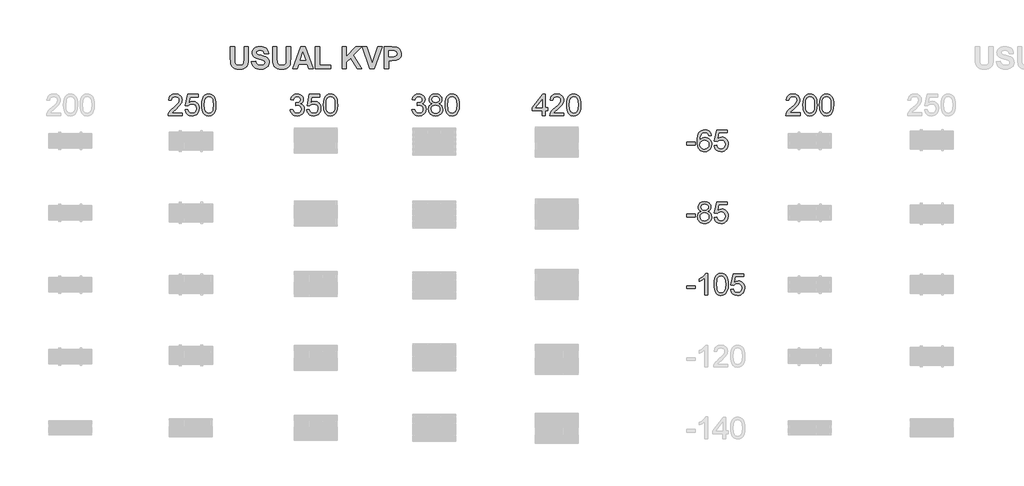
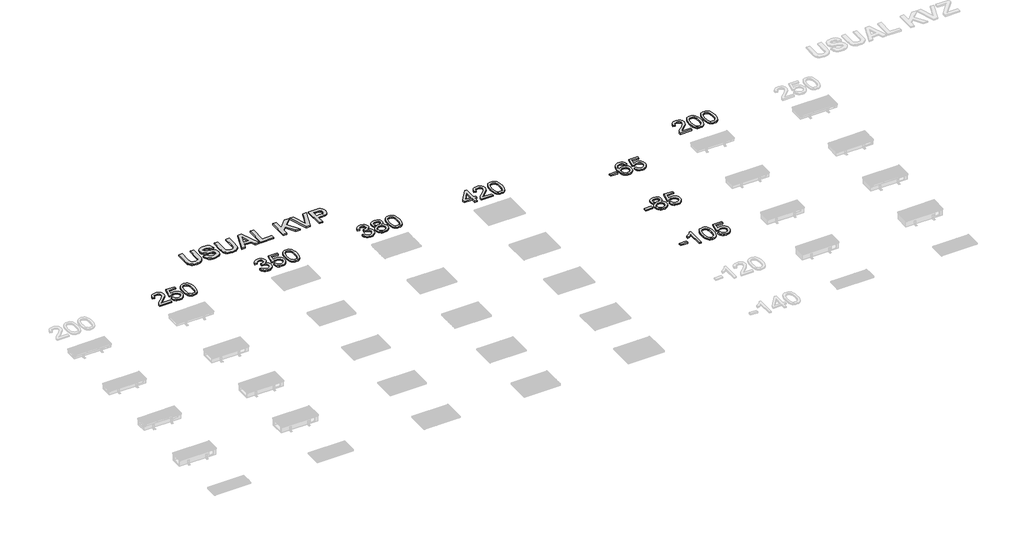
# One storey, part 9 of 12: 9 proxies.
"""IFC4 building model written with IfcOpenShell, lengths in millimetres."""

from ifc_helpers import new_model, si_unit, origin, origin_with_axes, place, context, project, spatial, polyline, outline, extrude, element, save

model = new_model("IFC4")

# Units and contexts
model_context = context("Model", 3, world=origin())
ifc_project = project(units=[si_unit("LENGTHUNIT", "METRE", prefix="MILLI")], contexts=[model_context])

# Site, building, storey
site = spatial("IfcSite", under=ifc_project)
building = spatial("IfcBuilding", under=site)
storey = spatial("IfcBuildingStorey", under=building, Name="Уровень 1", Elevation=0.0)

# Proxies
placement = place(None, origin())
element("IfcBuildingElementProxy", 1, Name="300", ObjectType="300", at=placement, inside=storey, context=model_context, shape_type="SweptSolid", body=[
    extrude(outline(polyline([(3537.6122264, -5516.6857315), (3537.6122264, -5554.3568478), (3339.8388658, -5554.3568478), (3343.8855677, -5528.384379), (3353.1745881, -5508.0864899), (3366.7678278, -5488.3956061), (3386.4311205, -5467.7850173), (3413.9302996, -5444.7280133), (3454.5812601, -5408.6203954), (3478.9718364, -5381.9673449), (3491.1671245, -5360.3358836), (3495.2322206, -5339.2930334), (3491.3970508, -5320.4298841), (3479.8915414, -5304.7489141), (3462.2056144, -5294.1815038), (3439.8291921, -5290.6590337), (3416.3307296, -5294.0987303), (3398.0745856, -5304.4178203), (3386.2931647, -5320.8069632), (3382.2188716, -5342.4568186), (3344.5477553, -5337.7479291), (3353.6804259, -5301.3092174), (3362.2267845, -5286.7732801), (3373.426492, -5274.6929551), (3387.0220309, -5265.1970011), (3402.755884, -5258.4141768), (3440.6385325, -5252.9879174), (3460.8283562, -5254.4962336), (3478.7970924, -5259.0211821), (3494.5447411, -5266.562763), (3508.0713022, -5277.1209763), (3518.9353174, -5289.9140726), (3526.6953282, -5304.1603029), (3531.3513347, -5319.8596671), (3532.9033369, -5337.0121651), (3531.2294738, -5355.0291858), (3526.2078846, -5372.7335068), (3517.2959432, -5390.7413305), (3503.9510238, -5409.6688591), (3482.6782475, -5432.2660107), (3449.9827352, -5461.282703), (3406.6462361, -5497.5190796), (3389.6500879, -5516.6857315), (3537.6122264, -5516.6857315)])), origin_with_axes(), (0.0, 0.0, 1.0), 20.0),
    extrude(outline(polyline([(3575.2833427, -5474.3057257), (3612.954459, -5469.5968361), (3619.8706405, -5492.2123818), (3631.93717, -5508.4083866), (3649.098865, -5518.1480625), (3671.3005435, -5521.3946211), (3698.3030819, -5516.8788696), (3718.5365916, -5503.3316151), (3731.1733382, -5482.3163561), (3735.385587, -5455.3965911), (3731.4400526, -5430.0495217), (3719.6034494, -5410.6621405), (3699.7838069, -5398.3564878), (3671.8891546, -5394.2546035), (3653.6146165, -5395.8916784), (3638.8165633, -5400.802903), (3617.6633486, -5417.7990512), (3579.9922322, -5413.0901617), (3612.954459, -5257.6968069), (3758.9300347, -5257.6968069), (3758.9300347, -5295.3679232), (3643.4150882, -5295.3679232), (3627.3018568, -5378.3621013), (3654.2124248, -5362.0281407), (3682.4105797, -5356.5834872), (3700.756395, -5358.2711459), (3717.6076896, -5363.3341218), (3732.9644636, -5371.7724151), (3746.8267171, -5383.5860257), (3758.302336, -5398.0529851), (3766.4992068, -5414.4513251), (3771.4173292, -5432.7810455), (3773.0567033, -5453.0421464), (3767.1521973, -5490.7132627), (3759.7715648, -5507.5070757), (3749.4386792, -5522.9397254), (3733.7853003, -5538.7448557), (3715.5199593, -5550.0342344), (3694.642656, -5556.8078616), (3671.1533907, -5559.0657374), (3634.153659, -5553.2623989), (3618.4749882, -5546.0082258), (3604.6771141, -5535.8523835), (3593.1968966, -5523.3007096), (3584.4711955, -5508.8590421), (3575.2833427, -5474.3057257)])), origin_with_axes(), (0.0, 0.0, 1.0), 20.0),
    extrude(outline(polyline([(3806.0189301, -5406.1004038), (3808.7872421, -5357.8618772), (3817.0921781, -5319.3906175), (3830.8509648, -5290.0980136), (3849.9808285, -5269.3954544), (3874.6197251, -5257.0898016), (3904.9056104, -5252.9879174), (3928.1189643, -5255.4159385), (3948.904297, -5262.700002), (3966.2867213, -5274.5549993), (3979.2913498, -5290.6958219), (3989.1137991, -5310.9845139), (3996.9496856, -5335.2831197), (4002.0816394, -5366.139222), (4003.7922907, -5406.1004038), (4001.0515698, -5454.0630189), (3992.8294072, -5492.442308), (3979.1533941, -5521.7625031), (3960.0511215, -5542.5478358), (3935.3570425, -5554.936262), (3904.9056104, -5559.0657374), (3884.1570659, -5557.2723126), (3865.7629661, -5551.8920385), (3849.7233111, -5542.9249148), (3836.0381009, -5530.3709417), (3822.9047137, -5507.6772212), (3813.5237228, -5479.4008913), (3807.8951283, -5445.5419522), (3806.0189301, -5406.1004038)]), holes=[polyline([(3843.6900464, -5406.0268274), (3848.1046303, -5465.2834197), (3853.6228603, -5485.5514184), (3861.3483822, -5499.5792187), (3881.0668571, -5515.9407705), (3904.9056104, -5521.3946211), (3928.7443637, -5515.9223764), (3948.4628386, -5499.5056423), (3956.1883605, -5485.4548494), (3961.7065904, -5465.1914492), (3966.1211744, -5406.0268274), (3961.8537432, -5348.1038072), (3956.5194543, -5327.9024872), (3949.0514498, -5313.5412938), (3929.3697631, -5296.3795987), (3904.464152, -5290.6590337), (3880.8829161, -5295.699017), (3861.9369934, -5310.818967), (3853.9539541, -5326.4539518), (3848.2517831, -5347.5335901), (3843.6900464, -5406.0268274)])]), origin_with_axes(), (0.0, 0.0, 1.0), 20.0),
])
element("IfcBuildingElementProxy", 2, Name="300", ObjectType="300", at=placement, inside=storey, context=model_context, shape_type="SweptSolid", body=[
    extrude(outline(polyline([(5036.7545175, -5474.3057257), (5074.4256338, -5469.5968361), (5082.8593285, -5493.2700425), (5095.2109665, -5509.2545152), (5112.087553, -5518.3595946), (5134.0960934, -5521.3946211), (5159.9214094, -5517.2191604), (5179.8606136, -5504.6927785), (5192.6077247, -5486.0043731), (5196.8567618, -5463.3428422), (5192.6445129, -5441.8309426), (5180.0077664, -5424.3841389), (5160.8779026, -5412.8234472), (5137.1863021, -5408.9698833), (5110.7723749, -5413.0901617), (5114.9662296, -5375.4190454), (5120.9994944, -5375.8605038), (5143.5690548, -5373.1565711), (5163.7473822, -5365.0447731), (5177.9844154, -5351.3227747), (5182.7300931, -5331.7882407), (5179.2903965, -5315.5186595), (5168.9713065, -5302.3208929), (5153.2259571, -5293.5744985), (5133.5074822, -5290.6590337), (5113.752219, -5293.6020896), (5097.6021995, -5302.4312575), (5085.8115815, -5317.1465373), (5079.1345233, -5337.7479291), (5041.463407, -5333.0390395), (5052.5550492, -5299.2122901), (5072.2919182, -5273.9571911), (5099.2944566, -5258.2302358), (5132.183107, -5252.9879174), (5155.8655104, -5255.5722884), (5177.6165334, -5263.3254014), (5195.9554509, -5275.5574778), (5209.4015378, -5291.5787387), (5217.6512915, -5310.0372178), (5220.4012095, -5329.5809488), (5217.7892473, -5347.7911075), (5209.9533608, -5364.3090091), (5197.0039146, -5378.3804954), (5179.0512732, -5389.2514084), (5202.6325091, -5398.7795521), (5220.1069039, -5415.0031481), (5230.9226345, -5437.0392796), (5234.5278781, -5464.0050298), (5232.7252563, -5483.1164995), (5227.317391, -5500.7196529), (5218.3042821, -5516.8144902), (5205.6859296, -5531.4010113), (5190.3130608, -5543.504329), (5173.0364026, -5552.1495559), (5153.855955, -5557.336692), (5132.7717182, -5559.0657374), (5113.7154309, -5557.5896109), (5096.3514007, -5553.1612313), (5080.6796277, -5545.7805988), (5066.7001119, -5535.4477133), (5054.9784718, -5522.76958), (5046.080326, -5508.3532043), (5040.0056746, -5492.1985862), (5036.7545175, -5474.3057257)])), origin_with_axes(), (0.0, 0.0, 1.0), 20.0),
    extrude(outline(polyline([(5267.4901048, -5474.3057257), (5305.1612211, -5469.5968361), (5312.0774026, -5492.2123818), (5324.1439321, -5508.4083866), (5341.3056272, -5518.1480625), (5363.5073056, -5521.3946211), (5390.509844, -5516.8788696), (5410.7433538, -5503.3316151), (5423.3801003, -5482.3163561), (5427.5923491, -5455.3965911), (5423.6468147, -5430.0495217), (5411.8102115, -5410.6621405), (5391.9905691, -5398.3564878), (5364.0959168, -5394.2546035), (5345.8213787, -5395.8916784), (5331.0233254, -5400.802903), (5309.8701107, -5417.7990512), (5272.1989944, -5413.0901617), (5305.1612211, -5257.6968069), (5451.1367968, -5257.6968069), (5451.1367968, -5295.3679232), (5335.6218503, -5295.3679232), (5319.508619, -5378.3621013), (5346.4191869, -5362.0281407), (5374.6173418, -5356.5834872), (5392.9631571, -5358.2711459), (5409.8144517, -5363.3341218), (5425.1712258, -5371.7724151), (5439.0334792, -5383.5860257), (5450.5090982, -5398.0529851), (5458.7059689, -5414.4513251), (5463.6240913, -5432.7810455), (5465.2634654, -5453.0421464), (5459.3589594, -5490.7132627), (5451.9783269, -5507.5070757), (5441.6454414, -5522.9397254), (5425.9920625, -5538.7448557), (5407.7267214, -5550.0342344), (5386.8494182, -5556.8078616), (5363.3601528, -5559.0657374), (5326.3604211, -5553.2623989), (5310.6817503, -5546.0082258), (5296.8838762, -5535.8523835), (5285.4036587, -5523.3007096), (5276.6779577, -5508.8590421), (5267.4901048, -5474.3057257)])), origin_with_axes(), (0.0, 0.0, 1.0), 20.0),
    extrude(outline(polyline([(5498.2256922, -5406.1004038), (5500.9940042, -5357.8618772), (5509.2989403, -5319.3906175), (5523.0577269, -5290.0980136), (5542.1875906, -5269.3954544), (5566.8264873, -5257.0898016), (5597.1123725, -5252.9879174), (5620.3257264, -5255.4159385), (5641.1110591, -5262.700002), (5658.4934834, -5274.5549993), (5671.4981119, -5290.6958219), (5681.3205612, -5310.9845139), (5689.1564477, -5335.2831197), (5694.2884015, -5366.139222), (5695.9990528, -5406.1004038), (5693.258332, -5454.0630189), (5685.0361694, -5492.442308), (5671.3601562, -5521.7625031), (5652.2578836, -5542.5478358), (5627.5638047, -5554.936262), (5597.1123725, -5559.0657374), (5576.363828, -5557.2723126), (5557.9697282, -5551.8920385), (5541.9300732, -5542.9249148), (5528.244863, -5530.3709417), (5515.1114758, -5507.6772212), (5505.7304849, -5479.4008913), (5500.1018904, -5445.5419522), (5498.2256922, -5406.1004038)]), holes=[polyline([(5535.8968085, -5406.0268274), (5540.3113925, -5465.2834197), (5545.8296224, -5485.5514184), (5553.5551443, -5499.5792187), (5573.2736192, -5515.9407705), (5597.1123725, -5521.3946211), (5620.9511258, -5515.9223764), (5640.6696007, -5499.5056423), (5648.3951226, -5485.4548494), (5653.9133526, -5465.1914492), (5658.3279365, -5406.0268274), (5654.0605054, -5348.1038072), (5648.7262164, -5327.9024872), (5641.2582119, -5313.5412938), (5621.5765252, -5296.3795987), (5596.6709141, -5290.6590337), (5573.0896782, -5295.699017), (5554.1437555, -5310.818967), (5546.1607162, -5326.4539518), (5540.4585453, -5347.5335901), (5535.8968085, -5406.0268274)])]), origin_with_axes(), (0.0, 0.0, 1.0), 20.0),
])
element("IfcBuildingElementProxy", 3, Name="300", ObjectType="300", at=placement, inside=storey, context=model_context, shape_type="SweptSolid", body=[
    extrude(outline(polyline([(6728.9612796, -5474.3057257), (6766.6323959, -5469.5968361), (6775.0660906, -5493.2700425), (6787.4177286, -5509.2545152), (6804.2943151, -5518.3595946), (6826.3028555, -5521.3946211), (6852.1281716, -5517.2191604), (6872.0673757, -5504.6927785), (6884.8144868, -5486.0043731), (6889.0635239, -5463.3428422), (6884.851275, -5441.8309426), (6872.2145285, -5424.3841389), (6853.0846648, -5412.8234472), (6829.3930643, -5408.9698833), (6802.979137, -5413.0901617), (6807.1729918, -5375.4190454), (6813.2062565, -5375.8605038), (6835.7758169, -5373.1565711), (6855.9541443, -5365.0447731), (6870.1911775, -5351.3227747), (6874.9368553, -5331.7882407), (6871.4971586, -5315.5186595), (6861.1780687, -5302.3208929), (6845.4327193, -5293.5744985), (6825.7142443, -5290.6590337), (6805.9589812, -5293.6020896), (6789.8089616, -5302.4312575), (6778.0183436, -5317.1465373), (6771.3412854, -5337.7479291), (6733.6701691, -5333.0390395), (6744.7618113, -5299.2122901), (6764.4986803, -5273.9571911), (6791.5012188, -5258.2302358), (6824.3898691, -5252.9879174), (6848.0722726, -5255.5722884), (6869.8232955, -5263.3254014), (6888.162213, -5275.5574778), (6901.6082999, -5291.5787387), (6909.8580537, -5310.0372178), (6912.6079716, -5329.5809488), (6909.9960094, -5347.7911075), (6902.1601229, -5364.3090091), (6889.2106767, -5378.3804954), (6871.2580353, -5389.2514084), (6894.8392712, -5398.7795521), (6912.313666, -5415.0031481), (6923.1293966, -5437.0392796), (6926.7346402, -5464.0050298), (6924.9320184, -5483.1164995), (6919.5241531, -5500.7196529), (6910.5110442, -5516.8144902), (6897.8926918, -5531.4010113), (6882.5198229, -5543.504329), (6865.2431647, -5552.1495559), (6846.0627172, -5557.336692), (6824.9784803, -5559.0657374), (6805.922193, -5557.5896109), (6788.5581628, -5553.1612313), (6772.8863898, -5545.7805988), (6758.906874, -5535.4477133), (6747.1852339, -5522.76958), (6738.2870882, -5508.3532043), (6732.2124367, -5492.1985862), (6728.9612796, -5474.3057257)])), origin_with_axes(), (0.0, 0.0, 1.0), 20.0),
    extrude(outline(polyline([(7014.5848606, -5388.3684916), (6994.4157303, -5378.4356777), (6980.2614705, -5364.9711967), (6971.9013521, -5348.25096), (6969.114646, -5328.5508792), (6970.6321593, -5313.1872074), (6975.184699, -5299.1019255), (6982.7722651, -5286.2950335), (6993.3948577, -5274.7665315), (7006.5420405, -5265.2383878), (7021.7033772, -5258.4325709), (7058.0685125, -5252.9879174), (7094.6543769, -5258.5613296), (7109.9812605, -5265.5280949), (7123.3307784, -5275.2815663), (7134.1465091, -5287.035396), (7141.872031, -5300.0032364), (7146.5073441, -5314.1850873), (7148.0524485, -5329.5809488), (7145.3025306, -5348.6464332), (7137.0527768, -5365.0815613), (7123.2112168, -5378.4632689), (7103.6858799, -5388.3684916), (7126.8716426, -5400.3154594), (7143.7482291, -5417.9094158), (7154.039728, -5440.3042323), (7157.4702276, -5466.6537802), (7155.7687733, -5485.4433531), (7150.6644107, -5502.6694275), (7142.1571395, -5518.3320034), (7130.2469599, -5532.4310809), (7115.5592713, -5544.0837431), (7098.7194729, -5552.4070733), (7079.7275649, -5557.4010713), (7058.5835473, -5559.0657374), (7037.4395296, -5557.3941735), (7018.4476216, -5552.3794821), (7001.6078233, -5544.021663), (6986.9201346, -5532.3207163), (6975.009955, -5518.1227706), (6966.5026839, -5502.2739544), (6961.3983212, -5484.7742677), (6959.696867, -5465.6237106), (6963.2653223, -5438.2532901), (6973.9706884, -5415.738912), (6991.2611421, -5398.8531285), (7014.5848606, -5388.3684916)]), holes=[polyline([(7006.7857623, -5329.6545252), (7010.1242914, -5346.0988504), (7020.1398788, -5359.2322376), (7036.5382187, -5367.8406763), (7059.0250057, -5370.7101558), (7080.9875608, -5367.8590704), (7097.1375804, -5359.305814), (7107.0703942, -5346.6138851), (7110.3813322, -5331.3467823), (7106.9600296, -5315.5002654), (7096.696122, -5302.3944693), (7080.3253732, -5293.5928926), (7058.5835473, -5290.6590337), (7036.7037656, -5293.5285132), (7020.360608, -5302.1369519), (7010.1794737, -5314.7553044), (7006.7857623, -5329.6545252)]), polyline([(6997.3679833, -5464.2993354), (7003.6587654, -5492.6630372), (7012.3683716, -5504.8307342), (7025.9156261, -5513.8898284), (7042.1392221, -5519.5184229), (7058.8778529, -5521.3946211), (7084.5192279, -5517.4490867), (7103.7594563, -5505.6124835), (7115.7891975, -5487.6874333), (7119.7991113, -5465.4765578), (7115.6604388, -5442.8886033), (7103.2444215, -5424.5680799), (7083.5627347, -5412.4279741), (7057.6270541, -5408.3812721), (7032.344364, -5412.3727918), (7013.2972737, -5424.3473507), (7001.3503059, -5442.3183862), (6997.3679833, -5464.2993354)])]), origin_with_axes(), (0.0, 0.0, 1.0), 20.0),
    extrude(outline(polyline([(7190.4324543, -5406.1004038), (7193.2007663, -5357.8618772), (7201.5057024, -5319.3906175), (7215.264489, -5290.0980136), (7234.3943528, -5269.3954544), (7259.0332494, -5257.0898016), (7289.3191346, -5252.9879174), (7312.5324885, -5255.4159385), (7333.3178213, -5262.700002), (7350.7002455, -5274.5549993), (7363.7048741, -5290.6958219), (7373.5273233, -5310.9845139), (7381.3632098, -5335.2831197), (7386.4951637, -5366.139222), (7388.2058149, -5406.1004038), (7385.4650941, -5454.0630189), (7377.2429315, -5492.442308), (7363.5669183, -5521.7625031), (7344.4646457, -5542.5478358), (7319.7705668, -5554.936262), (7289.3191346, -5559.0657374), (7268.5705901, -5557.2723126), (7250.1764904, -5551.8920385), (7234.1368354, -5542.9249148), (7220.4516251, -5530.3709417), (7207.3182379, -5507.6772212), (7197.937247, -5479.4008913), (7192.3086525, -5445.5419522), (7190.4324543, -5406.1004038)]), holes=[polyline([(7228.1035706, -5406.0268274), (7232.5181546, -5465.2834197), (7238.0363845, -5485.5514184), (7245.7619064, -5499.5792187), (7265.4803813, -5515.9407705), (7289.3191346, -5521.3946211), (7313.1578879, -5515.9223764), (7332.8763629, -5499.5056423), (7340.6018848, -5485.4548494), (7346.1201147, -5465.1914492), (7350.5346986, -5406.0268274), (7346.2672675, -5348.1038072), (7340.9329786, -5327.9024872), (7333.4649741, -5313.5412938), (7313.7832873, -5296.3795987), (7288.8776762, -5290.6590337), (7265.2964404, -5295.699017), (7246.3505176, -5310.818967), (7238.3674783, -5326.4539518), (7232.6653074, -5347.5335901), (7228.1035706, -5406.0268274)])]), origin_with_axes(), (0.0, 0.0, 1.0), 20.0),
])
element("IfcBuildingElementProxy", 4, Name="300", ObjectType="300", at=placement, inside=storey, context=model_context, shape_type="SweptSolid", body=[
    extrude(outline(polyline([(8543.5991697, -5554.3568478), (8543.5991697, -5483.7235048), (8407.0413731, -5483.7235048), (8407.0413731, -5446.0523884), (8553.0169488, -5257.6968069), (8581.270286, -5257.6968069), (8581.270286, -5446.0523884), (8618.9414023, -5446.0523884), (8618.9414023, -5483.7235048), (8581.270286, -5483.7235048), (8581.270286, -5554.3568478), (8543.5991697, -5554.3568478)]), holes=[polyline([(8543.5991697, -5446.0523884), (8543.5991697, -5329.6545252), (8453.3945045, -5446.0523884), (8543.5991697, -5446.0523884)])]), origin_with_axes(), (0.0, 0.0, 1.0), 20.0),
    extrude(outline(polyline([(8844.9681002, -5516.6857315), (8844.9681002, -5554.3568478), (8647.1947395, -5554.3568478), (8651.2414415, -5528.384379), (8660.5304619, -5508.0864899), (8674.1237016, -5488.3956061), (8693.7869942, -5467.7850173), (8721.2861734, -5444.7280133), (8761.9371338, -5408.6203954), (8786.3277101, -5381.9673449), (8798.5229983, -5360.3358836), (8802.5880943, -5339.2930334), (8798.7529245, -5320.4298841), (8787.2474151, -5304.7489141), (8769.5614882, -5294.1815038), (8747.1850658, -5290.6590337), (8723.6866034, -5294.0987303), (8705.4304594, -5304.4178203), (8693.6490385, -5320.8069632), (8689.5747454, -5342.4568186), (8651.9036291, -5337.7479291), (8661.0362996, -5301.3092174), (8669.5826582, -5286.7732801), (8680.7823657, -5274.6929551), (8694.3779047, -5265.1970011), (8710.1117578, -5258.4141768), (8747.9944062, -5252.9879174), (8768.18423, -5254.4962336), (8786.1529662, -5259.0211821), (8801.9006148, -5266.562763), (8815.4271759, -5277.1209763), (8826.2911911, -5289.9140726), (8834.0512019, -5304.1603029), (8838.7072084, -5319.8596671), (8840.2592106, -5337.0121651), (8838.5853475, -5355.0291858), (8833.5637583, -5372.7335068), (8824.651817, -5390.7413305), (8811.3068976, -5409.6688591), (8790.0341212, -5432.2660107), (8757.3386089, -5461.282703), (8714.0021099, -5497.5190796), (8697.0059617, -5516.6857315), (8844.9681002, -5516.6857315)])), origin_with_axes(), (0.0, 0.0, 1.0), 20.0),
    extrude(outline(polyline([(8882.6392165, -5406.1004038), (8885.4075285, -5357.8618772), (8893.7124645, -5319.3906175), (8907.4712511, -5290.0980136), (8926.6011149, -5269.3954544), (8951.2400115, -5257.0898016), (8981.5258968, -5252.9879174), (9004.7392507, -5255.4159385), (9025.5245834, -5262.700002), (9042.9070077, -5274.5549993), (9055.9116362, -5290.6958219), (9065.7340855, -5310.9845139), (9073.569972, -5335.2831197), (9078.7019258, -5366.139222), (9080.4125771, -5406.1004038), (9077.6718562, -5454.0630189), (9069.4496936, -5492.442308), (9055.7736804, -5521.7625031), (9036.6714078, -5542.5478358), (9011.9773289, -5554.936262), (8981.5258968, -5559.0657374), (8960.7773522, -5557.2723126), (8942.3832525, -5551.8920385), (8926.3435975, -5542.9249148), (8912.6583873, -5530.3709417), (8899.525, -5507.6772212), (8890.1440092, -5479.4008913), (8884.5154146, -5445.5419522), (8882.6392165, -5406.1004038)]), holes=[polyline([(8920.3103328, -5406.0268274), (8924.7249167, -5465.2834197), (8930.2431466, -5485.5514184), (8937.9686685, -5499.5792187), (8957.6871435, -5515.9407705), (8981.5258968, -5521.3946211), (9005.36465, -5515.9223764), (9025.083125, -5499.5056423), (9032.8086469, -5485.4548494), (9038.3268768, -5465.1914492), (9042.7414608, -5406.0268274), (9038.4740296, -5348.1038072), (9033.1397407, -5327.9024872), (9025.6717362, -5313.5412938), (9005.9900494, -5296.3795987), (8981.0844384, -5290.6590337), (8957.5032025, -5295.699017), (8938.5572797, -5310.818967), (8930.5742404, -5326.4539518), (8924.8720695, -5347.5335901), (8920.3103328, -5406.0268274)])]), origin_with_axes(), (0.0, 0.0, 1.0), 20.0),
])
element("IfcBuildingElementProxy", 5, Name="300", ObjectType="300", at=placement, inside=storey, context=model_context, shape_type="SweptSolid", body=[
    extrude(outline(polyline([(10550.4611786, -5963.3123649), (10550.4611786, -5925.6412486), (10668.183417, -5925.6412486), (10668.183417, -5963.3123649), (10550.4611786, -5963.3123649)])), origin_with_axes(), (0.0, 0.0, 1.0), 20.0),
    extrude(outline(polyline([(10894.2101149, -5831.4634579), (10856.5389986, -5836.1723474), (10850.4689457, -5817.5023361), (10842.2651772, -5804.755225), (10825.1770585, -5793.0013953), (10804.5204845, -5789.083452), (10787.0093015, -5791.3643204), (10770.5281881, -5798.2069255), (10756.3739283, -5812.6187027), (10744.8132366, -5832.4567393), (10737.0049413, -5860.5169384), (10734.1078706, -5899.5952034), (10749.2186235, -5881.9644588), (10767.3276147, -5869.5392444), (10787.4231687, -5862.1724074), (10808.49361, -5859.7167951), (10826.5934042, -5861.3952567), (10843.2952467, -5866.4306415), (10858.5991377, -5874.8229495), (10872.5050772, -5886.5721807), (10884.0611703, -5900.9793594), (10892.3155226, -5917.3455096), (10897.268134, -5935.6706315), (10898.9190044, -5955.954725), (10895.8104016, -5982.9296723), (10886.484593, -6007.936451), (10871.7141309, -6029.144848), (10852.2715674, -6044.7246505), (10829.0398194, -6054.2987794), (10802.9018037, -6057.4901557), (10780.4449071, -6055.3748342), (10760.1631129, -6049.0288698), (10742.0564209, -6038.4522625), (10726.1248313, -6023.6450121), (10713.1362976, -6003.9817195), (10703.8587735, -5978.8369851), (10698.2922591, -5948.210809), (10696.4367543, -5912.1031912), (10698.4968934, -5871.6223762), (10704.677311, -5837.0736583), (10714.9780068, -5808.4570376), (10729.398981, -5785.7725141), (10745.0293673, -5770.739936), (10763.1521541, -5760.0023803), (10783.7673414, -5753.5598469), (10806.8749292, -5751.4123357), (10839.9291265, -5756.7282305), (10866.398236, -5772.675915), (10884.9394886, -5798.0045904), (10894.2101149, -5831.4634579)]), holes=[polyline([(10734.1078706, -5955.3661138), (10736.2875714, -5972.0587594), (10742.8266739, -5987.9972468), (10752.9802169, -6001.7008511), (10766.0032396, -6011.6888473), (10781.7209978, -6017.7864914), (10799.9587477, -6019.8190394), (10824.8183735, -6015.6067906), (10844.3621045, -6002.970044), (10857.0264422, -5983.1044163), (10861.2478881, -5957.2055238), (10857.0816245, -5932.345898), (10844.5828337, -5913.3907782), (10824.7080089, -5901.3886281), (10798.4136433, -5897.3879114), (10773.5908057, -5901.3886281), (10752.8330641, -5913.3907782), (10738.789169, -5931.8860455), (10734.1078706, -5955.3661138)])]), origin_with_axes(), (0.0, 0.0, 1.0), 20.0),
    extrude(outline(polyline([(10931.8812312, -5972.730144), (10969.5523475, -5968.0212545), (10976.468529, -5990.6368001), (10988.5350584, -6006.832805), (11005.6967535, -6016.5724808), (11027.8984319, -6019.8190394), (11054.9009704, -6015.3032879), (11075.1344801, -6001.7560334), (11087.7712266, -5980.7407745), (11091.9834755, -5953.8210095), (11088.0379411, -5928.47394), (11076.2013379, -5909.0865588), (11056.3816954, -5896.7809061), (11028.4870431, -5892.6790219), (11010.212505, -5894.3160967), (10995.4144518, -5899.2273214), (10974.261237, -5916.2234696), (10936.5901207, -5911.51458), (10969.5523475, -5756.1212253), (11115.5279232, -5756.1212253), (11115.5279232, -5793.7923416), (11000.0129767, -5793.7923416), (10983.8997453, -5876.7865197), (11010.8103133, -5860.4525591), (11039.0084682, -5855.0079056), (11057.3542834, -5856.6955642), (11074.2055781, -5861.7585402), (11089.5623521, -5870.1968334), (11103.4246055, -5882.010444), (11114.9002245, -5896.4774035), (11123.0970952, -5912.8757434), (11128.0152177, -5931.2054638), (11129.6545918, -5951.4665647), (11123.7500858, -5989.137681), (11116.3694532, -6005.9314941), (11106.0365677, -6021.3641438), (11090.3831888, -6037.169274), (11072.1178477, -6048.4586527), (11051.2405445, -6055.23228), (11027.7512791, -6057.4901557), (10990.7515475, -6051.6868172), (10975.0728767, -6044.4326441), (10961.2750026, -6034.2768018), (10949.7947851, -6021.725128), (10941.069084, -6007.2834604), (10931.8812312, -5972.730144)])), origin_with_axes(), (0.0, 0.0, 1.0), 20.0),
])
element("IfcBuildingElementProxy", 6, Name="300", ObjectType="300", at=placement, inside=storey, context=model_context, shape_type="SweptSolid", body=[
    extrude(outline(polyline([(10550.4611786, -6963.3123649), (10550.4611786, -6925.6412486), (10668.183417, -6925.6412486), (10668.183417, -6963.3123649), (10550.4611786, -6963.3123649)])), origin_with_axes(), (0.0, 0.0, 1.0), 20.0),
    extrude(outline(polyline([(10756.0336375, -6886.7929099), (10735.8645071, -6876.8600961), (10721.7102473, -6863.395615), (10713.350129, -6846.6753784), (10710.5634229, -6826.9752975), (10712.0809361, -6811.6116257), (10716.6334758, -6797.5263438), (10724.221042, -6784.7194519), (10734.8436346, -6773.1909498), (10747.9908174, -6763.6628062), (10763.1521541, -6756.8569892), (10799.5172893, -6751.4123357), (10836.1031537, -6756.9857479), (10851.4300374, -6763.9525132), (10864.7795553, -6773.7059846), (10875.5952859, -6785.4598144), (10883.3208078, -6798.4276547), (10887.956121, -6812.6095056), (10889.5012253, -6828.0053671), (10886.7513074, -6847.0708515), (10878.5015537, -6863.5059796), (10864.6599936, -6876.8876872), (10845.1346567, -6886.7929099), (10868.3204195, -6898.7398777), (10885.197006, -6916.3338342), (10895.4885048, -6938.7286506), (10898.9190044, -6965.0781985), (10897.2175502, -6983.8677714), (10892.1131875, -7001.0938458), (10883.6059164, -7016.7564218), (10871.6957368, -7030.8554993), (10857.0080481, -7042.5081614), (10840.1682498, -7050.8314916), (10821.1763418, -7055.8254897), (10800.0323241, -7057.4901557), (10778.8883064, -7055.8185919), (10759.8963984, -7050.8039004), (10743.0566001, -7042.4460814), (10728.3689115, -7030.7451347), (10716.4587319, -7016.5471889), (10707.9514607, -7000.6983727), (10702.847098, -6983.198686), (10701.1456438, -6964.0481289), (10704.7140992, -6936.6777085), (10715.4194652, -6914.1633304), (10732.709919, -6897.2775468), (10756.0336375, -6886.7929099)]), holes=[polyline([(10748.2345392, -6828.0789435), (10751.5730683, -6844.5232687), (10761.5886556, -6857.6566559), (10777.9869956, -6866.2650946), (10800.4737825, -6869.1345742), (10822.4363376, -6866.2834887), (10838.5863572, -6857.7302323), (10848.5191711, -6845.0383035), (10851.830109, -6829.7712007), (10848.4088065, -6813.9246837), (10838.1448988, -6800.8188877), (10821.77415, -6792.0173109), (10800.0323241, -6789.083452), (10778.1525425, -6791.9529316), (10761.8093848, -6800.5613703), (10751.6282506, -6813.1797227), (10748.2345392, -6828.0789435)]), polyline([(10738.8167601, -6962.7237537), (10745.1075422, -6991.0874556), (10753.8171485, -7003.2551526), (10767.3644029, -7012.3142467), (10783.5879989, -7017.9428412), (10800.3266297, -7019.8190394), (10825.9680048, -7015.873505), (10845.2082331, -7004.0369018), (10857.2379744, -6986.1118516), (10861.2478881, -6963.9009761), (10857.1092157, -6941.3130216), (10844.6931983, -6922.9924983), (10825.0115116, -6910.8523924), (10799.0758309, -6906.8056905), (10773.7931408, -6910.7972101), (10754.7460505, -6922.7717691), (10742.7990827, -6940.7428045), (10738.8167601, -6962.7237537)])]), origin_with_axes(), (0.0, 0.0, 1.0), 20.0),
    extrude(outline(polyline([(10931.8812312, -6972.730144), (10969.5523475, -6968.0212545), (10976.468529, -6990.6368001), (10988.5350584, -7006.832805), (11005.6967535, -7016.5724808), (11027.8984319, -7019.8190394), (11054.9009704, -7015.3032879), (11075.1344801, -7001.7560334), (11087.7712266, -6980.7407745), (11091.9834755, -6953.8210095), (11088.0379411, -6928.47394), (11076.2013379, -6909.0865588), (11056.3816954, -6896.7809061), (11028.4870431, -6892.6790219), (11010.212505, -6894.3160967), (10995.4144518, -6899.2273214), (10974.261237, -6916.2234696), (10936.5901207, -6911.51458), (10969.5523475, -6756.1212253), (11115.5279232, -6756.1212253), (11115.5279232, -6793.7923416), (11000.0129767, -6793.7923416), (10983.8997453, -6876.7865197), (11010.8103133, -6860.4525591), (11039.0084682, -6855.0079056), (11057.3542834, -6856.6955642), (11074.2055781, -6861.7585402), (11089.5623521, -6870.1968334), (11103.4246055, -6882.010444), (11114.9002245, -6896.4774035), (11123.0970952, -6912.8757434), (11128.0152177, -6931.2054638), (11129.6545918, -6951.4665647), (11123.7500858, -6989.137681), (11116.3694532, -7005.9314941), (11106.0365677, -7021.3641438), (11090.3831888, -7037.169274), (11072.1178477, -7048.4586527), (11051.2405445, -7055.23228), (11027.7512791, -7057.4901557), (10990.7515475, -7051.6868172), (10975.0728767, -7044.4326441), (10961.2750026, -7034.2768018), (10949.7947851, -7021.725128), (10941.069084, -7007.2834604), (10931.8812312, -6972.730144)])), origin_with_axes(), (0.0, 0.0, 1.0), 20.0),
])
element("IfcBuildingElementProxy", 7, Name="300", ObjectType="300", at=placement, inside=storey, context=model_context, shape_type="SweptSolid", body=[
    extrude(outline(polyline([(10550.4611786, -7963.3123649), (10550.4611786, -7925.6412486), (10668.183417, -7925.6412486), (10668.183417, -7963.3123649), (10550.4611786, -7963.3123649)])), origin_with_axes(), (0.0, 0.0, 1.0), 20.0),
    extrude(outline(polyline([(10842.41233, -8052.7812662), (10804.7412137, -8052.7812662), (10804.7412137, -7817.9254004), (10769.0566601, -7843.3460463), (10729.398981, -7862.3655455), (10729.398981, -7826.7545683), (10758.9858905, -7810.659731), (10784.6180685, -7791.5114732), (10804.8239871, -7771.1492048), (10818.1321183, -7751.4123357), (10842.41233, -7751.4123357), (10842.41233, -8052.7812662)])), origin_with_axes(), (0.0, 0.0, 1.0), 20.0),
    extrude(outline(polyline([(10931.8812312, -7904.5248221), (10934.6495432, -7856.2862955), (10942.9544792, -7817.8150358), (10956.7132659, -7788.522432), (10975.8431296, -7767.8198727), (11000.4820262, -7755.51422), (11030.7679115, -7751.4123357), (11053.9812654, -7753.8403569), (11074.7665981, -7761.1244204), (11092.1490224, -7772.9794177), (11105.1536509, -7789.1202402), (11114.9761002, -7809.4089323), (11122.8119867, -7833.707538), (11127.9439405, -7864.5636404), (11129.6545918, -7904.5248221), (11126.9138709, -7952.4874372), (11118.6917083, -7990.8667264), (11105.0156952, -8020.1869214), (11085.9134226, -8040.9722541), (11061.2193436, -8053.3606803), (11030.7679115, -8057.4901557), (11010.019367, -8055.696731), (10991.6252672, -8050.3164568), (10975.5856122, -8041.3493332), (10961.900402, -8028.7953601), (10948.7670148, -8006.1016395), (10939.3860239, -7977.8253096), (10933.7574294, -7943.9663705), (10931.8812312, -7904.5248221)]), holes=[polyline([(10969.5523475, -7904.4512457), (10973.9669314, -7963.7078381), (10979.4851614, -7983.9758368), (10987.2106833, -7998.0036371), (11006.9291582, -8014.3651888), (11030.7679115, -8019.8190394), (11054.6066648, -8014.3467947), (11074.3251397, -7997.9300607), (11082.0506616, -7983.8792677), (11087.5688915, -7963.6158676), (11091.9834755, -7904.4512457), (11087.7160443, -7846.5282256), (11082.3817554, -7826.3269055), (11074.9137509, -7811.9657121), (11055.2320642, -7794.804017), (11030.3264531, -7789.083452), (11006.7452172, -7794.1234354), (10987.7992945, -7809.2433854), (10979.8162552, -7824.8783702), (10974.1140842, -7845.9580085), (10969.5523475, -7904.4512457)])]), origin_with_axes(), (0.0, 0.0, 1.0), 20.0),
    extrude(outline(polyline([(11162.6168186, -7972.730144), (11200.2879349, -7968.0212545), (11207.2041164, -7990.6368001), (11219.2706458, -8006.832805), (11236.4323409, -8016.5724808), (11258.6340193, -8019.8190394), (11285.6365577, -8015.3032879), (11305.8700675, -8001.7560334), (11318.506814, -7980.7407745), (11322.7190629, -7953.8210095), (11318.7735285, -7928.47394), (11306.9369253, -7909.0865588), (11287.1172828, -7896.7809061), (11259.2226305, -7892.6790219), (11240.9480924, -7894.3160967), (11226.1500391, -7899.2273214), (11204.9968244, -7916.2234696), (11167.3257081, -7911.51458), (11200.2879349, -7756.1212253), (11346.2635106, -7756.1212253), (11346.2635106, -7793.7923416), (11230.7485641, -7793.7923416), (11214.6353327, -7876.7865197), (11241.5459006, -7860.4525591), (11269.7440556, -7855.0079056), (11288.0898708, -7856.6955642), (11304.9411654, -7861.7585402), (11320.2979395, -7870.1968334), (11334.1601929, -7882.010444), (11345.6358119, -7896.4774035), (11353.8326826, -7912.8757434), (11358.750805, -7931.2054638), (11360.3901792, -7951.4665647), (11354.4856731, -7989.137681), (11347.1050406, -8005.9314941), (11336.7721551, -8021.3641438), (11321.1187762, -8037.169274), (11302.8534351, -8048.4586527), (11281.9761319, -8055.23228), (11258.4868665, -8057.4901557), (11221.4871348, -8051.6868172), (11205.8084641, -8044.4326441), (11192.01059, -8034.2768018), (11180.5303725, -8021.725128), (11171.8046714, -8007.2834604), (11162.6168186, -7972.730144)])), origin_with_axes(), (0.0, 0.0, 1.0), 20.0),
])
element("IfcBuildingElementProxy", 8, Name="300", ObjectType="300", at=placement, inside=storey, context=model_context, shape_type="SweptSolid", body=[
    extrude(outline(polyline([(12130.31647, -5516.3533714), (12130.31647, -5554.0244877), (11932.5431094, -5554.0244877), (11936.5898114, -5528.0520189), (11945.8788318, -5507.7541298), (11959.4720715, -5488.063246), (11979.1353641, -5467.4526572), (12006.6345433, -5444.3956531), (12047.2855037, -5408.2880353), (12071.67608, -5381.6349848), (12083.8713681, -5360.0035235), (12087.9364642, -5338.9606733), (12084.1012944, -5320.097524), (12072.595785, -5304.416554), (12054.9098581, -5293.8491437), (12032.5334357, -5290.3266736), (12009.0349733, -5293.7663702), (11990.7788293, -5304.0854602), (11978.9974084, -5320.4746031), (11974.9231153, -5342.1244585), (11937.251999, -5337.415569), (11946.3846695, -5300.9768573), (11954.9310281, -5286.44092), (11966.1307356, -5274.360595), (11979.7262746, -5264.864641), (11995.4601277, -5258.0818167), (12033.3427761, -5252.6555573), (12053.5325999, -5254.1638734), (12071.5013361, -5258.688822), (12087.2489847, -5266.2304029), (12100.7755458, -5276.7886161), (12111.639561, -5289.5817125), (12119.3995718, -5303.8279428), (12124.0555783, -5319.5273069), (12125.6075805, -5336.679805), (12123.9337174, -5354.6968257), (12118.9121282, -5372.4011467), (12110.0001869, -5390.4089704), (12096.6552675, -5409.336499), (12075.3824911, -5431.9336506), (12042.6869788, -5460.9503429), (11999.3504798, -5497.1867195), (11982.3543316, -5516.3533714), (12130.31647, -5516.3533714)])), origin_with_axes(), (0.0, 0.0, 1.0), 20.0),
    extrude(outline(polyline([(12167.9875863, -5405.7680437), (12170.7558984, -5357.529517), (12179.0608344, -5319.0582574), (12192.819621, -5289.7656535), (12211.9494848, -5269.0630942), (12236.5883814, -5256.7574415), (12266.8742666, -5252.6555573), (12290.0876205, -5255.0835784), (12310.8729533, -5262.3676419), (12328.2553775, -5274.2226392), (12341.2600061, -5290.3634618), (12351.0824553, -5310.6521538), (12358.9183418, -5334.9507596), (12364.0502957, -5365.8068619), (12365.760947, -5405.7680437), (12363.0202261, -5453.7306588), (12354.7980635, -5492.1099479), (12341.1220503, -5521.4301429), (12322.0197777, -5542.2154757), (12297.3256988, -5554.6039019), (12266.8742666, -5558.7333772), (12246.1257221, -5556.9399525), (12227.7316224, -5551.5596783), (12211.6919674, -5542.5925547), (12198.0067572, -5530.0385816), (12184.8733699, -5507.344861), (12175.492379, -5479.0685312), (12169.8637845, -5445.2095921), (12167.9875863, -5405.7680437)]), holes=[polyline([(12205.6587026, -5405.6944673), (12210.0732866, -5464.9510596), (12215.5915165, -5485.2190583), (12223.3170384, -5499.2468586), (12243.0355134, -5515.6084104), (12266.8742666, -5521.0622609), (12290.7130199, -5515.5900163), (12310.4314949, -5499.1732822), (12318.1570168, -5485.1224893), (12323.6752467, -5464.8590891), (12328.0898306, -5405.6944673), (12323.8223995, -5347.7714471), (12318.4881106, -5327.5701271), (12311.0201061, -5313.2089337), (12291.3384193, -5296.0472386), (12266.4328083, -5290.3266736), (12242.8515724, -5295.3666569), (12223.9056496, -5310.4866069), (12215.9226103, -5326.1215917), (12210.2204394, -5347.20123), (12205.6587026, -5405.6944673)])]), origin_with_axes(), (0.0, 0.0, 1.0), 20.0),
    extrude(outline(polyline([(12398.7231737, -5405.7680437), (12401.4914857, -5357.529517), (12409.7964218, -5319.0582574), (12423.5552084, -5289.7656535), (12442.6850721, -5269.0630942), (12467.3239688, -5256.7574415), (12497.609854, -5252.6555573), (12520.8232079, -5255.0835784), (12541.6085406, -5262.3676419), (12558.9909649, -5274.2226392), (12571.9955934, -5290.3634618), (12581.8180427, -5310.6521538), (12589.6539292, -5334.9507596), (12594.785883, -5365.8068619), (12596.4965343, -5405.7680437), (12593.7558135, -5453.7306588), (12585.5336509, -5492.1099479), (12571.8576377, -5521.4301429), (12552.7553651, -5542.2154757), (12528.0612862, -5554.6039019), (12497.609854, -5558.7333772), (12476.8613095, -5556.9399525), (12458.4672097, -5551.5596783), (12442.4275547, -5542.5925547), (12428.7423445, -5530.0385816), (12415.6089573, -5507.344861), (12406.2279664, -5479.0685312), (12400.5993719, -5445.2095921), (12398.7231737, -5405.7680437)]), holes=[polyline([(12436.39429, -5405.6944673), (12440.808874, -5464.9510596), (12446.3271039, -5485.2190583), (12454.0526258, -5499.2468586), (12473.7711007, -5515.6084104), (12497.609854, -5521.0622609), (12521.4486073, -5515.5900163), (12541.1670823, -5499.1732822), (12548.8926041, -5485.1224893), (12554.4108341, -5464.8590891), (12558.825418, -5405.6944673), (12554.5579869, -5347.7714471), (12549.2236979, -5327.5701271), (12541.7556934, -5313.2089337), (12522.0740067, -5296.0472386), (12497.1683956, -5290.3266736), (12473.5871597, -5295.3666569), (12454.641237, -5310.4866069), (12446.6581977, -5326.1215917), (12440.9560268, -5347.20123), (12436.39429, -5405.6944673)])]), origin_with_axes(), (0.0, 0.0, 1.0), 20.0),
])
element("IfcBuildingElementProxy", 9, Name="300_", ObjectType="300_", at=placement, inside=storey, context=model_context, shape_type="SweptSolid", body=[
    extrude(outline(polyline([(4205.8959748, -4597.3084704), (4264.1965119, -4597.3084704), (4264.1965119, -4762.4174135), (4266.7016131, -4813.4303835), (4274.0081583, -4830.2733935), (4287.2738078, -4843.4536419), (4306.4985618, -4851.9652926), (4331.6824201, -4854.8025095), (4356.8378114, -4852.1266059), (4374.9143939, -4844.0988952), (4386.5574211, -4832.1711975), (4392.4121463, -4817.7953326), (4395.3727205, -4765.9852849), (4395.3727205, -4597.3084704), (4453.6732576, -4597.3084704), (4453.6732576, -4757.8626841), (4452.401729, -4804.8712877), (4448.587143, -4835.6726457), (4441.35651, -4856.6149123), (4429.8368401, -4874.0462415), (4413.8668199, -4888.1184577), (4393.2851361, -4898.9833853), (4366.8961723, -4905.9293477), (4333.5043119, -4908.2446685), (4294.3905726, -4905.7205893), (4266.0184037, -4898.1483516), (4245.4272309, -4886.5337914), (4229.6564801, -4871.882745), (4218.5733051, -4855.3149166), (4212.0448595, -4837.9500105), (4207.4331959, -4805.4216509), (4205.8959748, -4760.3677853), (4205.8959748, -4597.3084704)])), origin_with_axes(), (0.0, 0.0, 1.0), 20.0),
    extrude(outline(polyline([(4497.3986605, -4801.3603504), (4555.6991976, -4796.5019723), (4564.2013593, -4822.5777985), (4578.4728449, -4840.6828481), (4598.6085448, -4851.2725942), (4624.703349, -4854.8025095), (4651.7850112, -4851.680622), (4671.2375017, -4842.3149595), (4682.96593, -4828.7741284), (4686.8754062, -4813.1267349), (4685.2527838, -4803.2107093), (4680.3849167, -4794.869861), (4671.4557491, -4787.8195193), (4657.6492254, -4781.7750137), (4607.0917284, -4768.7940348), (4563.9356667, -4755.3765609), (4535.8861244, -4738.9605568), (4523.2989398, -4725.6711847), (4514.3080936, -4711.0059047), (4508.9135859, -4694.9647169), (4507.1154166, -4677.5476212), (4510.4175955, -4655.0017103), (4520.3241321, -4633.9740426), (4536.4554656, -4616.1157075), (4558.4320353, -4603.0777944), (4585.8932583, -4595.1070179), (4618.478552, -4592.4500924), (4645.4344848, -4594.1059263), (4668.8367797, -4599.0734281), (4688.6854367, -4607.3525978), (4704.9804558, -4618.9434354), (4717.7740266, -4633.2955777), (4727.1183388, -4649.8586616), (4733.0133923, -4668.6326872), (4735.4591871, -4689.6176543), (4677.15865, -4689.6176543), (4670.7156056, -4669.5863336), (4659.5849855, -4656.1024366), (4642.7419755, -4648.4447977), (4619.1617615, -4645.8922514), (4594.3384859, -4648.606111), (4575.5881829, -4656.74769), (4567.9590111, -4664.9082469), (4565.4159538, -4675.4220808), (4567.7312746, -4685.3475954), (4574.677237, -4693.7169108), (4594.8414039, -4703.5190681), (4631.8011357, -4713.6438522), (4671.2469907, -4724.1766641), (4698.8695271, -4735.202905), (4718.2271273, -4748.5539557), (4732.8781737, -4766.0611971), (4742.1015009, -4787.9428766), (4745.1759433, -4814.4172416), (4741.5416487, -4839.6959901), (4730.6387651, -4863.3046712), (4713.0840786, -4883.1557004), (4689.4943756, -4897.1614935), (4659.6134525, -4905.4738748), (4623.1851058, -4908.2446685), (4595.9421302, -4906.5390172), (4572.0582676, -4901.4220634), (4551.5335179, -4892.8938069), (4534.3678813, -4880.9542478), (4520.4427448, -4865.7457215), (4509.6394959, -4847.4105631), (4501.9581344, -4825.9487728), (4497.3986605, -4801.3603504)])), origin_with_axes(), (0.0, 0.0, 1.0), 20.0),
    extrude(outline(polyline([(4793.7597242, -4597.3084704), (4852.0602614, -4597.3084704), (4852.0602614, -4762.4174135), (4854.5653626, -4813.4303835), (4861.8719078, -4830.2733935), (4875.1375573, -4843.4536419), (4894.3623113, -4851.9652926), (4919.5461696, -4854.8025095), (4944.7015609, -4852.1266059), (4962.7781434, -4844.0988952), (4974.4211706, -4832.1711975), (4980.2758958, -4817.7953326), (4983.23647, -4765.9852849), (4983.23647, -4597.3084704), (5041.5370071, -4597.3084704), (5041.5370071, -4757.8626841), (5040.2654785, -4804.8712877), (5036.4508925, -4835.6726457), (5029.2202595, -4856.6149123), (5017.7005896, -4874.0462415), (5001.7305694, -4888.1184577), (4981.1488856, -4898.9833853), (4954.7599218, -4905.9293477), (4921.3680614, -4908.2446685), (4882.2543221, -4905.7205893), (4853.8821532, -4898.1483516), (4833.2909804, -4886.5337914), (4817.5202296, -4871.882745), (4806.4370546, -4855.3149166), (4799.908609, -4837.9500105), (4795.2969454, -4805.4216509), (4793.7597242, -4760.3677853), (4793.7597242, -4597.3084704)])), origin_with_axes(), (0.0, 0.0, 1.0), 20.0),
    extrude(outline(polyline([(5357.3315833, -4903.3862904), (5296.070472, -4903.3862904), (5272.0822301, -4835.3689971), (5156.4680139, -4835.3689971), (5132.7834207, -4903.3862904), (5070.6872757, -4903.3862904), (5182.4299719, -4597.3084704), (5244.5261169, -4597.3084704), (5357.3315833, -4903.3862904)]), holes=[polyline([(5253.4078393, -4781.9268381), (5214.0094295, -4670.1841419), (5175.1424047, -4781.9268381), (5253.4078393, -4781.9268381)])]), origin_with_axes(), (0.0, 0.0, 1.0), 20.0),
    extrude(outline(polyline([(5386.4818518, -4903.3862904), (5386.4818518, -4597.3084704), (5444.782389, -4597.3084704), (5444.782389, -4849.9441314), (5600.250488, -4849.9441314), (5600.250488, -4903.3862904), (5386.4818518, -4903.3862904)])), origin_with_axes(), (0.0, 0.0, 1.0), 20.0),
    extrude(outline(polyline([(5760.5769652, -4903.3862904), (5760.5769652, -4597.3084704), (5818.8775023, -4597.3084704), (5818.8775023, -4736.8350164), (5950.2055352, -4597.3084704), (6030.2169494, -4597.3084704), (5914.3749967, -4714.2131934), (6035.0753275, -4903.3862904), (5966.9062099, -4903.3862904), (5876.49483, -4752.548833), (5818.8775023, -4810.773458), (5818.8775023, -4903.3862904), (5760.5769652, -4903.3862904)])), origin_with_axes(), (0.0, 0.0, 1.0), 20.0),
    extrude(outline(polyline([(6140.6691389, -4903.3862904), (6037.5045166, -4597.3084704), (6098.9933643, -4597.3084704), (6175.9682923, -4825.6522409), (6253.1709567, -4597.3084704), (6314.432068, -4597.3084704), (6205.8017703, -4903.3862904), (6140.6691389, -4903.3862904)])), origin_with_axes(), (0.0, 0.0, 1.0), 20.0),
    extrude(outline(polyline([(6348.4407147, -4903.3862904), (6348.4407147, -4597.3084704), (6447.0506076, -4597.3084704), (6493.3760018, -4598.4471528), (6520.1540155, -4601.8631999), (6544.2086804, -4612.7281275), (6563.9932865, -4631.6587218), (6577.2304691, -4657.9527955), (6581.6428632, -4690.9081609), (6579.0523608, -4716.6898275), (6571.2808537, -4738.0116548), (6559.5144692, -4755.0539342), (6544.939335, -4767.9969571), (6528.8364685, -4777.0589709), (6512.4868875, -4782.4582232), (6447.5819927, -4786.7852162), (6406.7412518, -4786.7852162), (6406.7412518, -4903.3862904), (6348.4407147, -4903.3862904)]), holes=[polyline([(6406.7412518, -4650.7506295), (6406.7412518, -4733.3430571), (6442.951351, -4733.3430571), (6475.5651118, -4732.2043747), (6495.2168716, -4728.7883276), (6506.964278, -4722.9336025), (6515.8649785, -4714.4788859), (6521.4729892, -4703.936585), (6523.3423261, -4691.8191068), (6520.7138676, -4677.3388627), (6512.8284922, -4665.6294124), (6500.9387505, -4657.241119), (6486.2971931, -4652.7243456), (6438.7002702, -4650.7506295), (6406.7412518, -4650.7506295)])]), origin_with_axes(), (0.0, 0.0, 1.0), 20.0),
])

save(model, "model.ifc")
